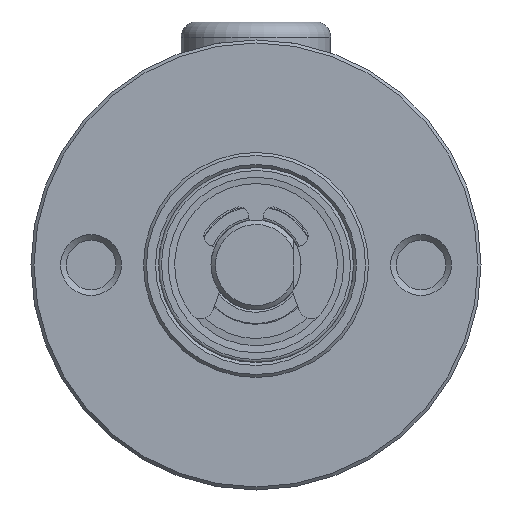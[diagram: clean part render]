
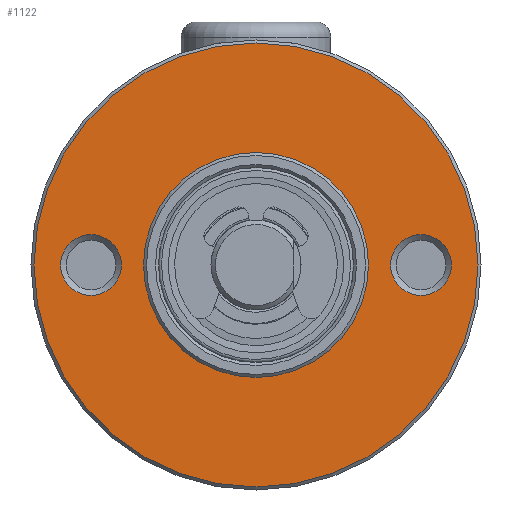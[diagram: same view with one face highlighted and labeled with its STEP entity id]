
A CAD part, front view. The second image highlights one B-rep face of the part: STEP entity #1122.
In plain terms, the highlighted planar face has unit normal (0, -1, 0).
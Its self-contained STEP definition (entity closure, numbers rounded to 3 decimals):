
#37 = CIRCLE ( 'NONE', #895, 2.025 ) ;
#78 = FACE_BOUND ( 'NONE', #1481, .T. ) ;
#141 = CARTESIAN_POINT ( 'NONE',  ( 0., 0., 14.8 ) ) ;
#195 = DIRECTION ( 'NONE',  ( 0., 1., 0. ) ) ;
#203 = CIRCLE ( 'NONE', #2366, 14.8 ) ;
#256 = AXIS2_PLACEMENT_3D ( 'NONE', #1139, #2507, #527 ) ;
#265 = VERTEX_POINT ( 'NONE', #646 ) ;
#276 = VERTEX_POINT ( 'NONE', #450 ) ;
#282 = FACE_BOUND ( 'NONE', #292, .T. ) ;
#292 = EDGE_LOOP ( 'NONE', ( #1192 ) ) ;
#297 = CIRCLE ( 'NONE', #2318, 7.5 ) ;
#300 = FACE_BOUND ( 'NONE', #1691, .T. ) ;
#327 = DIRECTION ( 'NONE',  ( 0., 0., 1. ) ) ;
#450 = CARTESIAN_POINT ( 'NONE',  ( 0., 0., -7.5 ) ) ;
#527 = DIRECTION ( 'NONE',  ( 0., 0., 1. ) ) ;
#613 = ORIENTED_EDGE ( 'NONE', *, *, #1445, .F. ) ;
#646 = CARTESIAN_POINT ( 'NONE',  ( -11., 0., 2.025 ) ) ;
#723 = EDGE_LOOP ( 'NONE', ( #1459 ) ) ;
#871 = DIRECTION ( 'NONE',  ( 0., -1., 0. ) ) ;
#895 = AXIS2_PLACEMENT_3D ( 'NONE', #1729, #2337, #327 ) ;
#1050 = DIRECTION ( 'NONE',  ( 0., 0., 1. ) ) ;
#1122 = ADVANCED_FACE ( 'NONE', ( #2101, #78, #282, #300 ), #2509, .T. ) ;
#1139 = CARTESIAN_POINT ( 'NONE',  ( -11., 0., 0. ) ) ;
#1192 = ORIENTED_EDGE ( 'NONE', *, *, #1626, .F. ) ;
#1300 = CARTESIAN_POINT ( 'NONE',  ( 0., 0., 0. ) ) ;
#1306 = VERTEX_POINT ( 'NONE', #141 ) ;
#1445 = EDGE_CURVE ( 'NONE', #265, #265, #2277, .T. ) ;
#1459 = ORIENTED_EDGE ( 'NONE', *, *, #1784, .T. ) ;
#1472 = EDGE_CURVE ( 'NONE', #276, #276, #297, .T. ) ;
#1481 = EDGE_LOOP ( 'NONE', ( #613 ) ) ;
#1601 = AXIS2_PLACEMENT_3D ( 'NONE', #1300, #2059, #1882 ) ;
#1617 = DIRECTION ( 'NONE',  ( 0., 0., -1. ) ) ;
#1626 = EDGE_CURVE ( 'NONE', #1632, #1632, #37, .T. ) ;
#1632 = VERTEX_POINT ( 'NONE', #2282 ) ;
#1691 = EDGE_LOOP ( 'NONE', ( #2217 ) ) ;
#1729 = CARTESIAN_POINT ( 'NONE',  ( 11., 0., 0. ) ) ;
#1784 = EDGE_CURVE ( 'NONE', #1306, #1306, #203, .T. ) ;
#1832 = CARTESIAN_POINT ( 'NONE',  ( 0., 0., 0. ) ) ;
#1882 = DIRECTION ( 'NONE',  ( 0., 0., 1. ) ) ;
#2000 = CARTESIAN_POINT ( 'NONE',  ( 0., 0., 0. ) ) ;
#2059 = DIRECTION ( 'NONE',  ( 0., -1., 0. ) ) ;
#2101 = FACE_OUTER_BOUND ( 'NONE', #723, .T. ) ;
#2217 = ORIENTED_EDGE ( 'NONE', *, *, #1472, .T. ) ;
#2277 = CIRCLE ( 'NONE', #256, 2.025 ) ;
#2282 = CARTESIAN_POINT ( 'NONE',  ( 11., 0., 2.025 ) ) ;
#2318 = AXIS2_PLACEMENT_3D ( 'NONE', #2000, #195, #1617 ) ;
#2337 = DIRECTION ( 'NONE',  ( 0., -1., 0. ) ) ;
#2366 = AXIS2_PLACEMENT_3D ( 'NONE', #1832, #871, #1050 ) ;
#2507 = DIRECTION ( 'NONE',  ( 0., -1., 0. ) ) ;
#2509 = PLANE ( 'NONE',  #1601 ) ;
